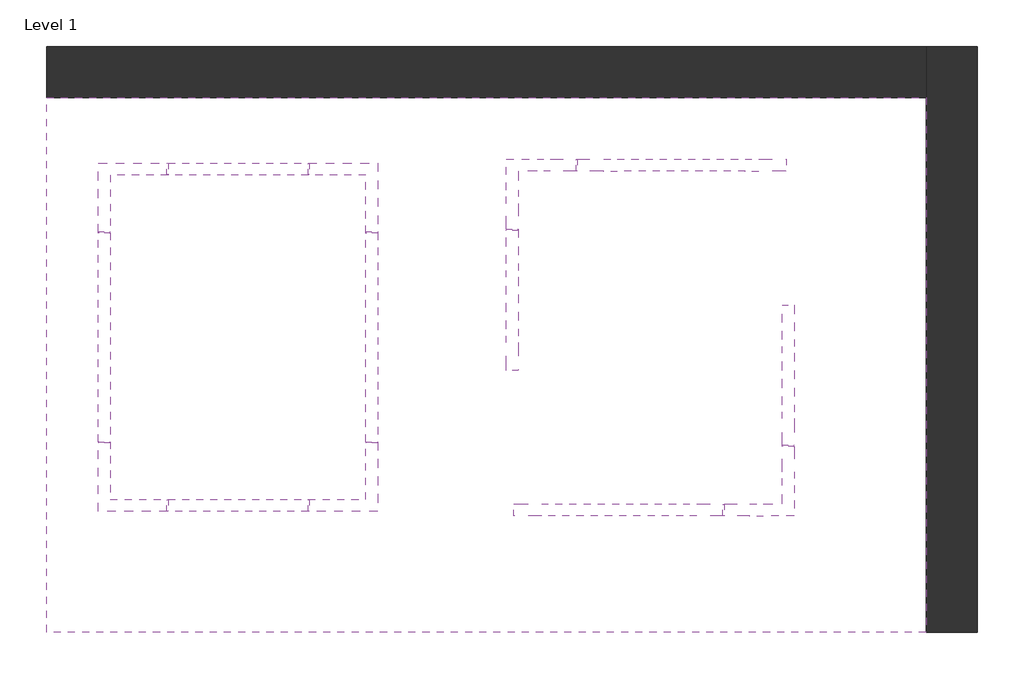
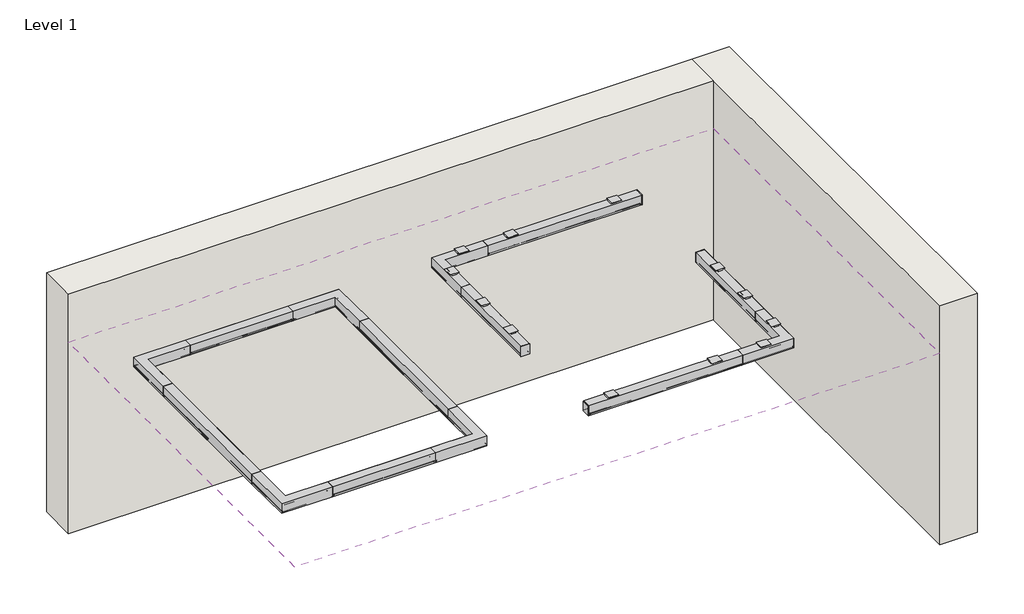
# One storey: 14 light fixtures, 2 walls, 1 covering.
"""IFC4 building model written with IfcOpenShell, lengths in millimetres."""

from ifc_helpers import new_model, si_unit, frame, origin, origin_with_axes, place, context, project, spatial, polyline, outline, extrude, faceted_brep, transform, mapped, element, save
from components import lighting_surface_bracket_axis_extend_4_31f86dbd, lighting_surface_bracket_axis_extend_4_d4e9c410, lighting_surface_bracket_axis_extend_4_60ec5a75, lighting_surface_bracket_axis_extend_4_corner_2x2_ce4d7e07, lighting_surface_axis_extend_4_af5dcece, lighting_surface_axis_extend_4_310553ae, lighting_surface_axis_extend_4_corner_2x2_baa705cf

model = new_model("IFC4")

# Units and contexts
model_context = context("Model", 3, world=origin())
ifc_project = project(units=[si_unit("LENGTHUNIT", "METRE", prefix="MILLI")], contexts=[model_context])

# Site, building, storey
site = spatial("IfcSite", under=ifc_project)
building = spatial("IfcBuilding", under=site)
storey = spatial("IfcBuildingStorey", under=building, Name="Level 1", Elevation=0.0)

# Covering
placement = place(None, origin())
element("IfcCovering", 1, ObjectType="2' x 4' ACT System", at=placement, inside=storey, context=model_context, shape_type="SweptSolid", body=[
    extrude(outline(polyline([(-4065.5199774, 6283.1270347), (3706.8800226, 6283.1270347), (3706.8800226, 1558.7270347), (-4065.5199774, 1558.7270347), (-4065.5199774, 6283.1270347)])), frame((0.0, 0.0, 2438.4), z_axis=(0.0, 0.0, 1.0), x_axis=(1.0, 0.0, 0.0)), (0.0, 0.0, 1.0), 57.15),
])

# Light fixtures
lighting_surface_bracket_axis_extend_4_shape = lighting_surface_bracket_axis_extend_4_31f86dbd(model_context)
element("IfcLightFixture", 2, ObjectType="Lighting -Surface Bracket-Axis-Extend_4 : EX4S-900-80-35-SO-4", at=placement, inside=storey, context=model_context, shape_type="MappedRepresentation", body=[
    mapped(lighting_surface_bracket_axis_extend_4_shape, transform((7.2125426, 5107.5629452, 2438.4), x_axis=(0.0, 1.0, 0.0), y_axis=(1.0, 0.0, 0.0), z_axis=(0.0, 0.0, -1.0))),
])
lighting_surface_bracket_axis_extend_4_2_shape = lighting_surface_bracket_axis_extend_4_d4e9c410(model_context)
element("IfcLightFixture", 3, ObjectType="Lighting -Surface Bracket-Axis-Extend_4 : EX4S-900-80-35-SO-4", at=placement, inside=storey, context=model_context, shape_type="MappedRepresentation", body=[
    mapped(lighting_surface_bracket_axis_extend_4_2_shape, transform((701.5550593, 2595.612662, 2438.4), x_axis=(-1.0, 0.0, 0.0), y_axis=(0.0, 1.0, 0.0), z_axis=(0.0, 0.0, -1.0))),
])
element("IfcLightFixture", 4, ObjectType="Lighting -Surface Bracket-Axis-Extend_4 : EX4S-900-80-35-SO-4", at=placement, inside=storey, context=model_context, shape_type="MappedRepresentation", body=[
    mapped(lighting_surface_bracket_axis_extend_4_2_shape, transform((1836.2000058, 5728.542642, 2438.4), x_axis=(1.0, 0.0, 0.0), y_axis=(0.0, -1.0, 0.0), z_axis=(0.0, 0.0, -1.0))),
])
lighting_surface_bracket_axis_extend_4_3_shape = lighting_surface_bracket_axis_extend_4_60ec5a75(model_context)
element("IfcLightFixture", 5, ObjectType="Lighting -Surface Bracket-Axis-Extend_4 : EX4S-900-80-35-SO-4", at=placement, inside=storey, context=model_context, shape_type="MappedRepresentation", body=[
    mapped(lighting_surface_bracket_axis_extend_4_3_shape, transform((2445.6125426, 4424.6001252, 2438.4), x_axis=(0.0, 1.0, 0.0), y_axis=(1.0, 0.0, 0.0), z_axis=(0.0, 0.0, -1.0))),
])
lighting_surface_bracket_axis_extend_4_corner_2x2_shape = lighting_surface_bracket_axis_extend_4_corner_2x2_ce4d7e07(model_context)
element("IfcLightFixture", 6, ObjectType="Lighting-Surface Bracket-Axis-Extend_4-Corner : 2x2", at=placement, inside=storey, context=model_context, shape_type="MappedRepresentation", body=[
    mapped(lighting_surface_bracket_axis_extend_4_corner_2x2_shape, transform((49.6775326, 5686.077652, 2438.4), x_axis=(-1.0, 0.0, 0.0), y_axis=(0.0, 1.0, 0.0), z_axis=(0.0, 0.0, -1.0))),
])
element("IfcLightFixture", 7, ObjectType="Lighting-Surface Bracket-Axis-Extend_4-Corner : 2x2", at=placement, inside=storey, context=model_context, shape_type="MappedRepresentation", body=[
    mapped(lighting_surface_bracket_axis_extend_4_corner_2x2_shape, transform((2488.0775326, 2638.077652, 2438.4), x_axis=(1.0, 0.0, 0.0), y_axis=(0.0, -1.0, 0.0), z_axis=(0.0, 0.0, -1.0))),
])
lighting_surface_axis_extend_4_shape = lighting_surface_axis_extend_4_af5dcece(model_context)
element("IfcLightFixture", 8, ObjectType="Lighting-Surface-Axis-Extend_4 : EX4S-900-80-35-SO-4", at=placement, inside=storey, context=model_context, shape_type="MappedRepresentation", body=[
    mapped(lighting_surface_axis_extend_4_shape, transform((-2373.0163774, 2678.3120447, 2438.4), x_axis=(1.0, 0.0, 0.0), y_axis=(0.0, -1.0, 0.0), z_axis=(0.0, 0.0, -1.0))),
])
element("IfcLightFixture", 9, ObjectType="Lighting-Surface-Axis-Extend_4 : EX4S-900-80-35-SO-4", at=placement, inside=storey, context=model_context, shape_type="MappedRepresentation", body=[
    mapped(lighting_surface_axis_extend_4_shape, transform((-2373.0163774, 5652.9492247, 2438.4), x_axis=(1.0, 0.0, 0.0), y_axis=(0.0, -1.0, 0.0), z_axis=(0.0, 0.0, -1.0))),
])
lighting_surface_axis_extend_4_2_shape = lighting_surface_axis_extend_4_310553ae(model_context)
element("IfcLightFixture", 10, ObjectType="Lighting-Surface-Axis-Extend_4 : EX4S-900-80-35-SO-4", at=placement, inside=storey, context=model_context, shape_type="MappedRepresentation", body=[
    mapped(lighting_surface_axis_extend_4_2_shape, transform((-3555.5349674, 4165.6306347, 2438.4), x_axis=(0.0, 1.0, 0.0), y_axis=(1.0, 0.0, 0.0), z_axis=(0.0, 0.0, -1.0))),
])
element("IfcLightFixture", 11, ObjectType="Lighting-Surface-Axis-Extend_4 : EX4S-900-80-35-SO-4", at=placement, inside=storey, context=model_context, shape_type="MappedRepresentation", body=[
    mapped(lighting_surface_axis_extend_4_2_shape, transform((-1190.4977874, 4165.6306347, 2438.4), x_axis=(0.0, 1.0, 0.0), y_axis=(1.0, 0.0, 0.0), z_axis=(0.0, 0.0, -1.0))),
])
lighting_surface_axis_extend_4_corner_2x2_shape = lighting_surface_axis_extend_4_corner_2x2_baa705cf(model_context)
element("IfcLightFixture", 12, ObjectType="Lighting-Surface-Axis-Extend_4-Corner : 2x2", at=placement, inside=storey, context=model_context, shape_type="MappedRepresentation", body=[
    mapped(lighting_surface_axis_extend_4_corner_2x2_shape, transform((-3555.3002507, 5652.9492247, 2438.4), x_axis=(-1.0, 0.0, 0.0), y_axis=(0.0, 1.0, 0.0), z_axis=(0.0, 0.0, -1.0))),
])
element("IfcLightFixture", 13, ObjectType="Lighting-Surface-Axis-Extend_4-Corner : 2x2", at=placement, inside=storey, context=model_context, shape_type="MappedRepresentation", body=[
    mapped(lighting_surface_axis_extend_4_corner_2x2_shape, transform((-3555.5349674, 2678.3120447, 2438.4), x_axis=(0.0, -1.0, 0.0), y_axis=(-1.0, 0.0, 0.0), z_axis=(0.0, 0.0, -1.0))),
])
element("IfcLightFixture", 14, ObjectType="Lighting-Surface-Axis-Extend_4-Corner : 2x2", at=placement, inside=storey, context=model_context, shape_type="MappedRepresentation", body=[
    mapped(lighting_surface_axis_extend_4_corner_2x2_shape, transform((-1190.4977874, 2678.3120447, 2438.4), x_axis=(1.0, 0.0, 0.0), y_axis=(0.0, -1.0, 0.0), z_axis=(0.0, 0.0, -1.0))),
])
element("IfcLightFixture", 15, ObjectType="Lighting-Surface-Axis-Extend_4-Corner : 2x2", at=placement, inside=storey, context=model_context, shape_type="MappedRepresentation", body=[
    mapped(lighting_surface_axis_extend_4_corner_2x2_shape, transform((-1190.4977874, 5652.9492247, 2438.4), x_axis=(0.0, 1.0, 0.0), y_axis=(1.0, 0.0, 0.0), z_axis=(0.0, 0.0, -1.0))),
])

# Walls
element("IfcWall", 16, ObjectType="Exterior - CMU on Mtl. Stud", at=placement, inside=storey, context=model_context, shape_type="Brep", body=[
    faceted_brep([(4160.9050226, 1558.7270347, 0.0), (4160.9050226, 6737.1520347, 0.0), (4160.9050226, 6737.1520347, 3048.0), (4160.9050226, 1558.7270347, 3048.0), (3706.8800226, 1558.7270347, 0.0), (3706.8800226, 1558.7270347, 3048.0), (3706.8800226, 6283.1270347, 3048.0), (3706.8800226, 6737.1520347, 3048.0), (3706.8800226, 6737.1520347, 0.0), (3706.8800226, 6283.1270347, 0.0)], [[[0, 1, 2, 3]], [[4, 5, 6, 7, 8, 9]], [[1, 0, 4, 9, 8]], [[3, 2, 7, 6, 5]], [[0, 3, 5, 4]], [[2, 1, 8, 7]]]),
])
element("IfcWall", 17, ObjectType="Exterior - CMU on Mtl. Stud", at=placement, inside=storey, context=model_context, shape_type="SweptSolid", body=[
    extrude(outline(polyline([(-4065.5199774, 6737.1520347), (3706.8800226, 6737.1520347), (3706.8800226, 6283.1270347), (-4065.5199774, 6283.1270347), (-4065.5199774, 6737.1520347)])), origin_with_axes(), (0.0, 0.0, 1.0), 3048.0),
])

save(model, "model.ifc")
